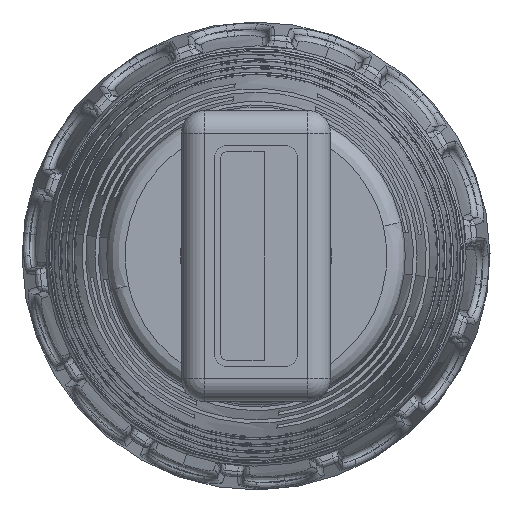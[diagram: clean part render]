
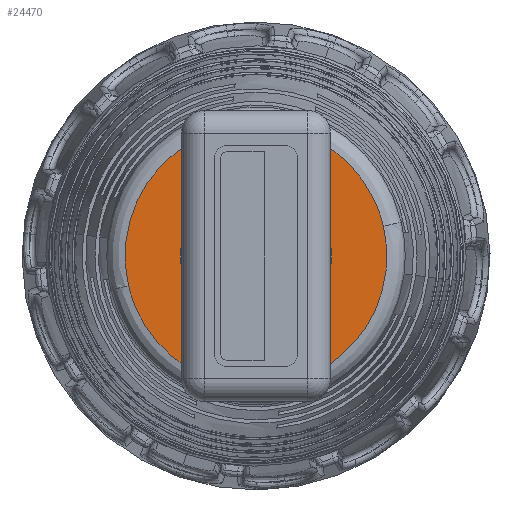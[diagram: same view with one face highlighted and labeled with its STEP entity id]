
A CAD part, left-side view. The second image highlights one B-rep face of the part: STEP entity #24470.
In plain terms, the highlighted planar face has unit normal (-1, 0, 0) as drawn and (0, 0, 1) by its records, which use the part's own axes.
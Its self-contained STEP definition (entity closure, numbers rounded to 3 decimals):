
#5997 = CARTESIAN_POINT ( 'NONE',  ( -9.919, 11.277, 65.55 ) ) ;
#5998 = CARTESIAN_POINT ( 'NONE',  ( -4.919, 11.277, 65.55 ) ) ;
#8880 = VERTEX_POINT ( 'NONE', #27990 ) ;
#9683 = EDGE_LOOP ( 'NONE', ( #23221, #23222 ) ) ;
#9687 = EDGE_LOOP ( 'NONE', ( #23219, #23220 ) ) ;
#10541 = EDGE_CURVE ( 'NONE', #32102, #32100, #14634, .T. ) ;
#10542 = EDGE_CURVE ( 'NONE', #8880, #13931, #15369, .T. ) ;
#13931 = VERTEX_POINT ( 'NONE', #34052 ) ;
#14634 = CIRCLE ( 'NONE', #29522, 2.5 ) ;
#15369 =( BOUNDED_CURVE ( )  B_SPLINE_CURVE ( 2, ( #32170, #32172, #32180, #32182, #32184 ),
 .UNSPECIFIED., .F., .F. ) 
 B_SPLINE_CURVE_WITH_KNOTS ( ( 3, 2, 3 ),
 ( 0.5, 0.667, 1. ),
 .UNSPECIFIED. ) 
 CURVE ( )  GEOMETRIC_REPRESENTATION_ITEM ( )  RATIONAL_B_SPLINE_CURVE ( ( 0.75, 0.75, 1., 0.5, 1. ) ) 
 REPRESENTATION_ITEM ( '' )  );
#23219 = ORIENTED_EDGE ( 'NONE', *, *, #10541, .F. ) ;
#23220 = ORIENTED_EDGE ( 'NONE', *, *, #29031, .F. ) ;
#23221 = ORIENTED_EDGE ( 'NONE', *, *, #28967, .F. ) ;
#23222 = ORIENTED_EDGE ( 'NONE', *, *, #10542, .F. ) ;
#24470 = ADVANCED_FACE ( 'NONE', ( #35744, #35759 ), #43201, .T. ) ;
#26191 =( BOUNDED_CURVE ( )  B_SPLINE_CURVE ( 2, ( #44392, #44393, #44397, #44398, #44399 ),
 .UNSPECIFIED., .F., .F. ) 
 B_SPLINE_CURVE_WITH_KNOTS ( ( 3, 2, 3 ),
 ( 0., 0.333, 0.5 ),
 .UNSPECIFIED. ) 
 CURVE ( )  GEOMETRIC_REPRESENTATION_ITEM ( )  RATIONAL_B_SPLINE_CURVE ( ( 1., 0.5, 1., 0.75, 0.75 ) ) 
 REPRESENTATION_ITEM ( '' )  );
#27990 = CARTESIAN_POINT ( 'NONE',  ( -0.744, 13.714, 65.55 ) ) ;
#28967 = EDGE_CURVE ( 'NONE', #13931, #8880, #26191, .T. ) ;
#29031 = EDGE_CURVE ( 'NONE', #32100, #32102, #36018, .T. ) ;
#29522 = AXIS2_PLACEMENT_3D ( 'NONE', #32174, #32176, #32178 ) ;
#32100 = VERTEX_POINT ( 'NONE', #5997 ) ;
#32102 = VERTEX_POINT ( 'NONE', #5998 ) ;
#32170 = CARTESIAN_POINT ( 'NONE',  ( -0.744, 13.714, 65.55 ) ) ;
#32172 = CARTESIAN_POINT ( 'NONE',  ( 0.663, 9.86, 65.55 ) ) ;
#32174 = CARTESIAN_POINT ( 'NONE',  ( -7.419, 11.277, 65.55 ) ) ;
#32176 = DIRECTION ( 'NONE',  ( 0., 0., 1. ) ) ;
#32178 = DIRECTION ( 'NONE',  ( 1., 0., 0. ) ) ;
#32180 = CARTESIAN_POINT ( 'NONE',  ( -1.971, 6.715, 65.55 ) ) ;
#32182 = CARTESIAN_POINT ( 'NONE',  ( -9.874, -2.721, 65.55 ) ) ;
#32184 = CARTESIAN_POINT ( 'NONE',  ( -14.094, 8.841, 65.55 ) ) ;
#34052 = CARTESIAN_POINT ( 'NONE',  ( -14.094, 8.841, 65.55 ) ) ;
#35744 = FACE_BOUND ( 'NONE', #9687, .T. ) ;
#35759 = FACE_OUTER_BOUND ( 'NONE', #9683, .T. ) ;
#36018 = CIRCLE ( 'NONE', #39022, 2.5 ) ;
#38893 = AXIS2_PLACEMENT_3D ( 'NONE', #43198, #43205, #43207 ) ;
#39022 = AXIS2_PLACEMENT_3D ( 'NONE', #45134, #45135, #45136 ) ;
#43198 = CARTESIAN_POINT ( 'NONE',  ( -18.314, 20.402, 65.55 ) ) ;
#43201 = PLANE ( 'NONE',  #38893 ) ;
#43205 = DIRECTION ( 'NONE',  ( 0., 0., 1. ) ) ;
#43207 = DIRECTION ( 'NONE',  ( 0., -1., 0. ) ) ;
#44392 = CARTESIAN_POINT ( 'NONE',  ( -14.094, 8.841, 65.55 ) ) ;
#44393 = CARTESIAN_POINT ( 'NONE',  ( -18.314, 20.402, 65.55 ) ) ;
#44397 = CARTESIAN_POINT ( 'NONE',  ( -6.192, 18.276, 65.55 ) ) ;
#44398 = CARTESIAN_POINT ( 'NONE',  ( -2.151, 17.568, 65.55 ) ) ;
#44399 = CARTESIAN_POINT ( 'NONE',  ( -0.744, 13.714, 65.55 ) ) ;
#45134 = CARTESIAN_POINT ( 'NONE',  ( -7.419, 11.277, 65.55 ) ) ;
#45135 = DIRECTION ( 'NONE',  ( 0., 0., 1. ) ) ;
#45136 = DIRECTION ( 'NONE',  ( 1., 0., 0. ) ) ;
